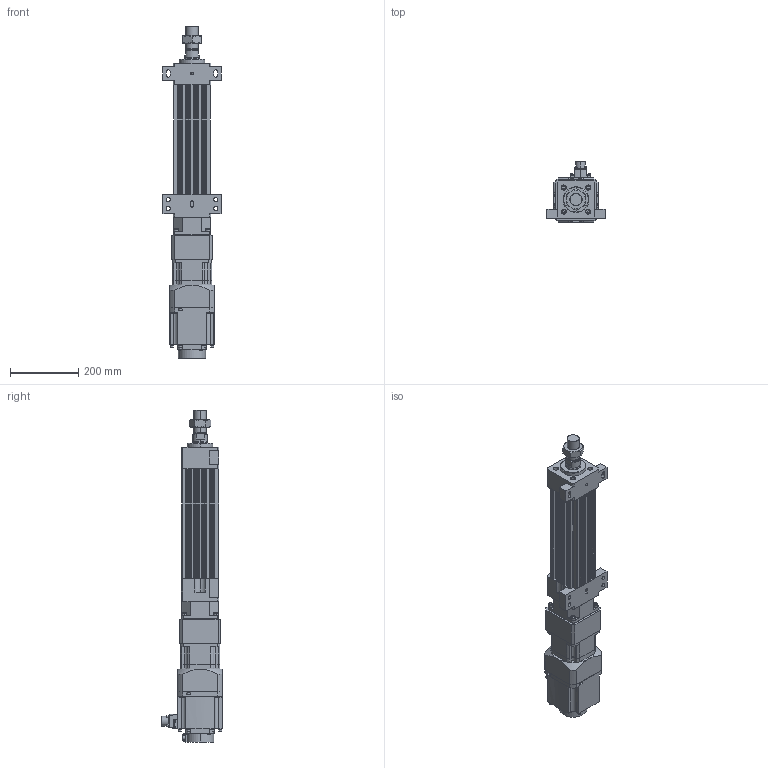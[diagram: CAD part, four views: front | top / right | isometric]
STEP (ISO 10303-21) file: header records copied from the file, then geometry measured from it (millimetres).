
FILE_DESCRIPTION (( 'STEP AP203' ), '1' );
FILE_NAME ('HES110NS(HS)-S150-W015G00-M-FFB.STEP', '2023-01-27T11:40:43', ( 'tms' ), ( '' ), 'SwSTEP 2.0', 'SolidWorks 2013', '' );
FILE_SCHEMA (( 'CONFIG_CONTROL_DESIGN' ));
Length unit declared in the file: millimetre
Products named in the file (8): HES110 ROD M ST150; HES110-S150-G120-FFB; AB1151; AB115-003[HG-SR152]; P0401400706; M36X1.5P; HES110NS(HS)-S150-W015G00-M-FFB; HG-SR152
Assembly tree (7 placements, depth 3):
  HES110NS(HS)-S150-W015G00-M-FFB
    HES110-S150-G120-FFB
    HES110 ROD M ST150
    M36X1.5P
    AB115-003[HG-SR152]
      AB1151
      P0401400706
    HG-SR152
Bounding box: 170 x 177.49 x 971.5 mm (x, y, z)
Volume: 6368832.3 mm3; surface area: 850539.5 mm2
Topology: 4 solids, 15 shells, 1194 faces, 3023 edges, 1968 vertices
Faces by surface type: plane 571, cylinder 531, cone 80, bspline 8, torus 4
Entity records: 37745 total; most frequent: CARTESIAN_POINT 7162, DIRECTION 6520, ORIENTED_EDGE 5998, EDGE_CURVE 3009, AXIS2_PLACEMENT_3D 2386, VERTEX_POINT 1968, VECTOR 1748, LINE 1748
